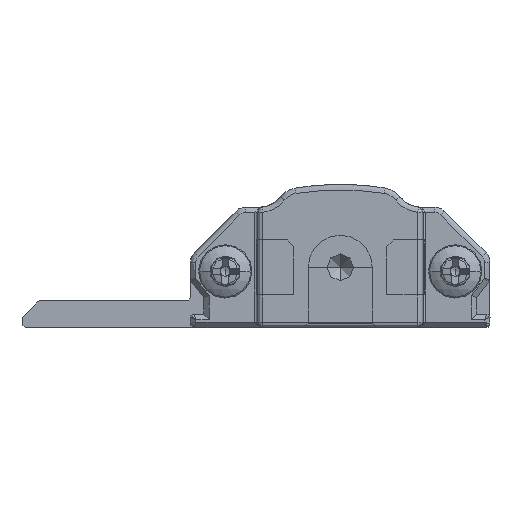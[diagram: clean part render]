
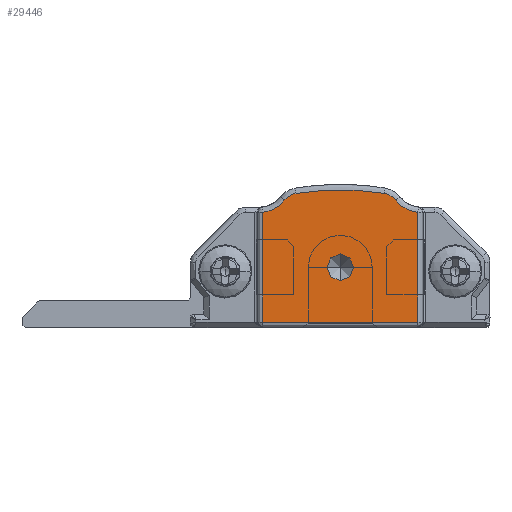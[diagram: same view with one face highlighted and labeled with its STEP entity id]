
A CAD part, front view. The second image highlights one B-rep face of the part: STEP entity #29446.
In plain terms, the highlighted planar face has unit normal (0, -1, 0).
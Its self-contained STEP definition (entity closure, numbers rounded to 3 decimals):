
#20 = DIRECTION ( 'NONE',  ( 0., -1., 0. ) ) ;
#208 = DIRECTION ( 'NONE',  ( 1., 0., 0. ) ) ;
#840 = CARTESIAN_POINT ( 'NONE',  ( 17.238, -15., 11. ) ) ;
#1046 = ORIENTED_EDGE ( 'NONE', *, *, #4491, .F. ) ;
#1125 = CIRCLE ( 'NONE', #13317, 2.4 ) ;
#1238 = EDGE_CURVE ( 'NONE', #23814, #16338, #21761, .T. ) ;
#1706 = CARTESIAN_POINT ( 'NONE',  ( 5.4, -15., 0.4 ) ) ;
#2160 = VERTEX_POINT ( 'NONE', #15922 ) ;
#2372 = DIRECTION ( 'NONE',  ( 0., 1., 0. ) ) ;
#2738 = VERTEX_POINT ( 'NONE', #11317 ) ;
#3082 = AXIS2_PLACEMENT_3D ( 'NONE', #12676, #5375, #14911 ) ;
#3693 = EDGE_CURVE ( 'NONE', #19675, #23814, #26594, .T. ) ;
#4165 = EDGE_LOOP ( 'NONE', ( #12643, #1046 ) ) ;
#4431 = DIRECTION ( 'NONE',  ( 0., -1., 0. ) ) ;
#4491 = EDGE_CURVE ( 'NONE', #14792, #4511, #27647, .T. ) ;
#4511 = VERTEX_POINT ( 'NONE', #18731 ) ;
#4769 = CIRCLE ( 'NONE', #22501, 20.676 ) ;
#4848 = VECTOR ( 'NONE', #21901, 1000. ) ;
#5375 = DIRECTION ( 'NONE',  ( 0., -1., 0. ) ) ;
#5653 = CARTESIAN_POINT ( 'NONE',  ( 14.3, -15., 8.75 ) ) ;
#5744 = PLANE ( 'NONE',  #6865 ) ;
#5793 = DIRECTION ( 'NONE',  ( 0., 0., -1. ) ) ;
#6219 = CARTESIAN_POINT ( 'NONE',  ( 11.2, -15., 5.5 ) ) ;
#6865 = AXIS2_PLACEMENT_3D ( 'NONE', #15460, #15305, #10214 ) ;
#6886 = EDGE_CURVE ( 'NONE', #2738, #2160, #4769, .T. ) ;
#7285 = VERTEX_POINT ( 'NONE', #22127 ) ;
#7764 = CARTESIAN_POINT ( 'NONE',  ( 15.332, -15., 9.541 ) ) ;
#8172 = DIRECTION ( 'NONE',  ( 0., 1., 0. ) ) ;
#8998 = EDGE_CURVE ( 'NONE', #17695, #19675, #11876, .T. ) ;
#9331 = DIRECTION ( 'NONE',  ( 0., 0., -1. ) ) ;
#9349 = CARTESIAN_POINT ( 'NONE',  ( 11.2, -15., 4.5 ) ) ;
#9364 = DIRECTION ( 'NONE',  ( 0., 0., -1. ) ) ;
#9464 = AXIS2_PLACEMENT_3D ( 'NONE', #840, #8172, #22727 ) ;
#9571 = DIRECTION ( 'NONE',  ( 0., 0., -1. ) ) ;
#9924 = EDGE_CURVE ( 'NONE', #7285, #17695, #1125, .T. ) ;
#10214 = DIRECTION ( 'NONE',  ( 0., 0., -1. ) ) ;
#10650 = DIRECTION ( 'NONE',  ( 0., 0., -1. ) ) ;
#11112 = DIRECTION ( 'NONE',  ( 0., -1., 0. ) ) ;
#11193 = CIRCLE ( 'NONE', #3082, 1. ) ;
#11317 = CARTESIAN_POINT ( 'NONE',  ( 14.508, -15., 10.034 ) ) ;
#11764 = EDGE_CURVE ( 'NONE', #16338, #16908, #30253, .T. ) ;
#11876 = LINE ( 'NONE', #1706, #30845 ) ;
#11952 = CARTESIAN_POINT ( 'NONE',  ( 11.2, -15., -10.376 ) ) ;
#12026 = ORIENTED_EDGE ( 'NONE', *, *, #16776, .T. ) ;
#12643 = ORIENTED_EDGE ( 'NONE', *, *, #18017, .F. ) ;
#12676 = CARTESIAN_POINT ( 'NONE',  ( 11.2, -15., 4.5 ) ) ;
#13317 = AXIS2_PLACEMENT_3D ( 'NONE', #18750, #2372, #9364 ) ;
#14792 = VERTEX_POINT ( 'NONE', #6219 ) ;
#14911 = DIRECTION ( 'NONE',  ( 0., 0., -1. ) ) ;
#15305 = DIRECTION ( 'NONE',  ( 0., -1., 0. ) ) ;
#15460 = CARTESIAN_POINT ( 'NONE',  ( 22.15, -15., 3.606 ) ) ;
#15922 = CARTESIAN_POINT ( 'NONE',  ( 7.892, -15., 10.034 ) ) ;
#16338 = VERTEX_POINT ( 'NONE', #31033 ) ;
#16776 = EDGE_CURVE ( 'NONE', #2160, #7285, #23435, .T. ) ;
#16908 = VERTEX_POINT ( 'NONE', #7764 ) ;
#17348 = CARTESIAN_POINT ( 'NONE',  ( 5.4, -15., 0.4 ) ) ;
#17695 = VERTEX_POINT ( 'NONE', #26541 ) ;
#17895 = AXIS2_PLACEMENT_3D ( 'NONE', #18396, #11112, #10650 ) ;
#18017 = EDGE_CURVE ( 'NONE', #4511, #14792, #11193, .T. ) ;
#18396 = CARTESIAN_POINT ( 'NONE',  ( 8.1, -15., 8.75 ) ) ;
#18471 = EDGE_CURVE ( 'NONE', #16908, #2738, #22345, .T. ) ;
#18731 = CARTESIAN_POINT ( 'NONE',  ( 11.2, -15., 3.5 ) ) ;
#18750 = CARTESIAN_POINT ( 'NONE',  ( 5.162, -15., 11. ) ) ;
#18848 = ORIENTED_EDGE ( 'NONE', *, *, #3693, .T. ) ;
#19675 = VERTEX_POINT ( 'NONE', #17348 ) ;
#20000 = ORIENTED_EDGE ( 'NONE', *, *, #6886, .T. ) ;
#20684 = ORIENTED_EDGE ( 'NONE', *, *, #9924, .T. ) ;
#21761 = LINE ( 'NONE', #31431, #4848 ) ;
#21901 = DIRECTION ( 'NONE',  ( 0., 0., 1. ) ) ;
#21960 = CARTESIAN_POINT ( 'NONE',  ( 17., -15., 0.4 ) ) ;
#22127 = CARTESIAN_POINT ( 'NONE',  ( 7.068, -15., 9.541 ) ) ;
#22258 = FACE_OUTER_BOUND ( 'NONE', #26161, .T. ) ;
#22345 = CIRCLE ( 'NONE', #25410, 1.3 ) ;
#22501 = AXIS2_PLACEMENT_3D ( 'NONE', #11952, #20, #9571 ) ;
#22727 = DIRECTION ( 'NONE',  ( 0., 0., -1. ) ) ;
#23435 = CIRCLE ( 'NONE', #17895, 1.3 ) ;
#23814 = VERTEX_POINT ( 'NONE', #24398 ) ;
#24398 = CARTESIAN_POINT ( 'NONE',  ( 17., -15., 0.4 ) ) ;
#24585 = VECTOR ( 'NONE', #208, 1000. ) ;
#25069 = ORIENTED_EDGE ( 'NONE', *, *, #1238, .T. ) ;
#25410 = AXIS2_PLACEMENT_3D ( 'NONE', #5653, #27546, #5793 ) ;
#26161 = EDGE_LOOP ( 'NONE', ( #25069, #30885, #26836, #20000, #12026, #20684, #28142, #18848 ) ) ;
#26541 = CARTESIAN_POINT ( 'NONE',  ( 5.4, -15., 8.612 ) ) ;
#26594 = LINE ( 'NONE', #21960, #24585 ) ;
#26836 = ORIENTED_EDGE ( 'NONE', *, *, #18471, .T. ) ;
#27135 = AXIS2_PLACEMENT_3D ( 'NONE', #9349, #4431, #31250 ) ;
#27546 = DIRECTION ( 'NONE',  ( 0., -1., 0. ) ) ;
#27647 = CIRCLE ( 'NONE', #27135, 1. ) ;
#28142 = ORIENTED_EDGE ( 'NONE', *, *, #8998, .T. ) ;
#29446 = ADVANCED_FACE ( 'NONE', ( #22258, #30033 ), #5744, .T. ) ;
#30033 = FACE_BOUND ( 'NONE', #4165, .T. ) ;
#30253 = CIRCLE ( 'NONE', #9464, 2.4 ) ;
#30845 = VECTOR ( 'NONE', #9331, 1000. ) ;
#30885 = ORIENTED_EDGE ( 'NONE', *, *, #11764, .T. ) ;
#31033 = CARTESIAN_POINT ( 'NONE',  ( 17., -15., 8.612 ) ) ;
#31250 = DIRECTION ( 'NONE',  ( 0., 0., -1. ) ) ;
#31431 = CARTESIAN_POINT ( 'NONE',  ( 17., -15., 8.612 ) ) ;
